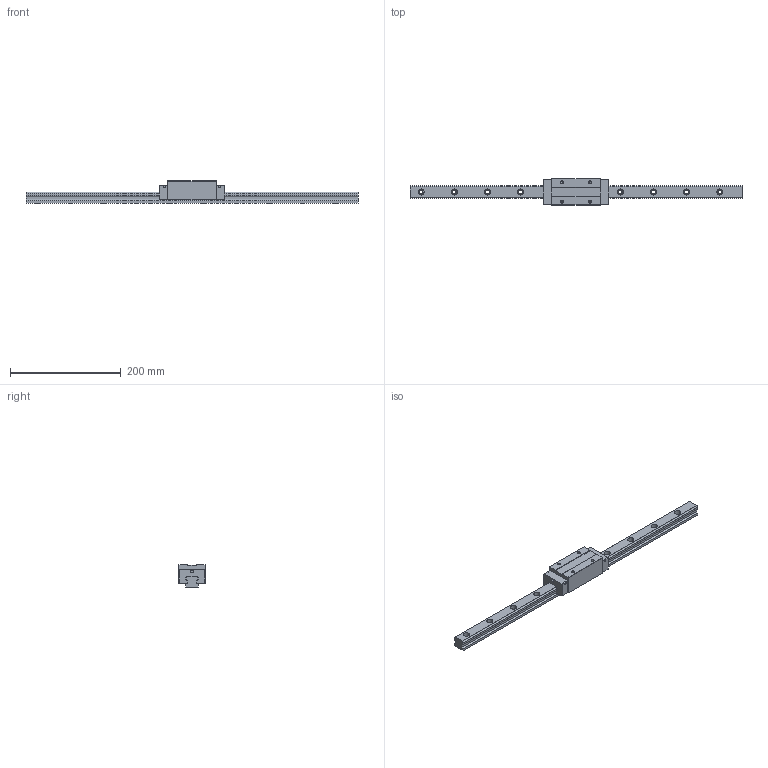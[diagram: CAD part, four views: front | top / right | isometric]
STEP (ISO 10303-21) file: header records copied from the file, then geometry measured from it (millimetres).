
FILE_DESCRIPTION (( 'STEP AP203' ), '1' );
FILE_NAME ('TRH25VE-ZN.STEP', '2024-05-20T06:35:19', ( '' ), ( '' ), 'SwSTEP 2.0', 'SolidWorks 2022', '' );
FILE_SCHEMA (( 'CONFIG_CONTROL_DESIGN' ));
Length unit declared in the file: millimetre
Products named in the file (1): TRH25VE-ZN
Bounding box: 600 x 48 x 40 mm (x, y, z)
Volume: 380282.2 mm3; surface area: 84954.8 mm2
Topology: 2 solids, 2 shells, 200 faces, 520 edges, 336 vertices
Faces by surface type: cylinder 96, plane 88, cone 16
Entity records: 6223 total; most frequent: DIRECTION 1114, CARTESIAN_POINT 1049, ORIENTED_EDGE 1024, EDGE_CURVE 512, AXIS2_PLACEMENT_3D 401, VERTEX_POINT 336, VECTOR 312, LINE 312
